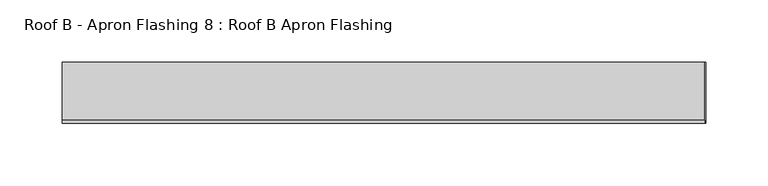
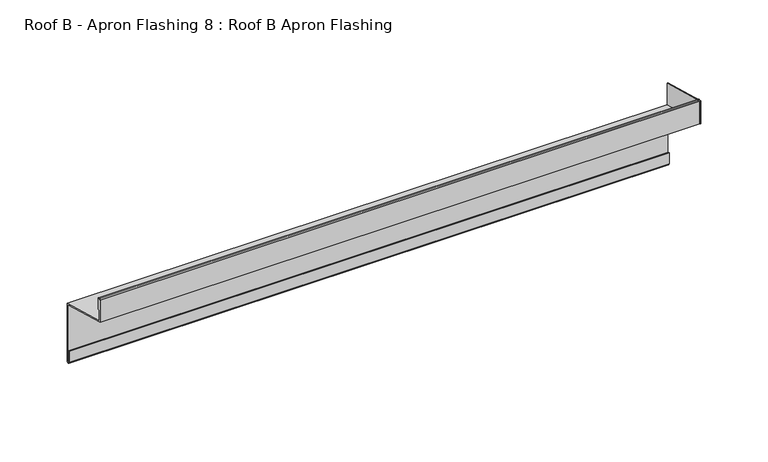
"""IFC4 building model written with IfcOpenShell, lengths in millimetres: proxy geometry, Roof B - Apron Flashing 8 : Roof B Apron Flashing."""

import ifcopenshell
import ifcopenshell.guid

model = None  # the IFC model being written
_history = None  # IfcOwnerHistory: only IFC2X3 demands one
_inside = {}  # id of a spatial element -> (the spatial element, [elements in it])
_under = {}  # id of a project, library or spatial element -> (it, [spatial elements below it])
_declared = {}  # id of a project -> (the project, [libraries it declares])
_typed = {}  # id of a type object -> (the type object, [elements of that type])
_made_of = {}  # id of a material, layer set ... -> (it, [elements and type objects made of it])


def new_model(schema):
    """Start an empty IFC model of exactly this schema.

    Asked for "IFC4X3", IfcOpenShell would pick the latest addendum, in which some entities
    have other attributes; the version numbers below select the first issue.
    IFC2X3 requires an IfcOwnerHistory on every rooted entity: one is made here for all.
    """
    global model, _history
    if schema == "IFC4X3":
        model = ifcopenshell.file(schema_version=(4, 3, 0, 0))
    else:
        model = ifcopenshell.file(schema=schema)
    _inside.clear()
    _under.clear()
    _declared.clear()
    _typed.clear()
    _made_of.clear()
    _history = None
    if model.schema == "IFC2X3":
        org = make("IfcOrganization", Name="unknown")
        user = make(
            "IfcPersonAndOrganization",
            ThePerson=make("IfcPerson", FamilyName="unknown"),
            TheOrganization=org,
        )
        app = make(
            "IfcApplication",
            ApplicationDeveloper=org,
            Version="unknown",
            ApplicationFullName="unknown",
            ApplicationIdentifier="unknown",
        )
        _history = make(
            "IfcOwnerHistory",
            OwningUser=user,
            OwningApplication=app,
            ChangeAction="ADDED",
            CreationDate=0,
        )
    return model


def make(cls, **values):
    """One entity of the class cls with the attributes given. An attribute that is None is left unset."""
    return model.create_entity(
        cls, **{name: value for name, value in values.items() if value is not None}
    )


def rooted(cls, **values):
    """An entity with a GlobalId (a new one), such as an element, a storey or a relation."""
    return make(cls, GlobalId=ifcopenshell.guid.new(), OwnerHistory=_history, **values)


def si_unit(unit_type, name, prefix=None):
    """IfcSIUnit, for example si_unit("LENGTHUNIT", "METRE", prefix="MILLI")."""
    return make("IfcSIUnit", UnitType=unit_type, Prefix=prefix, Name=name)


def assignment(units):
    """IfcUnitAssignment: the units of a project."""
    return None if units is None else make("IfcUnitAssignment", Units=units)


def point(xyz):
    """IfcCartesianPoint."""
    return None if xyz is None else make("IfcCartesianPoint", Coordinates=xyz)


def direction(xyz):
    """IfcDirection."""
    return None if xyz is None else make("IfcDirection", DirectionRatios=xyz)


def frame(location, z_axis=None, x_axis=None):
    """IfcAxis2Placement3D, a coordinate frame: its origin and axes. An axis left out is left unset."""
    return make(
        "IfcAxis2Placement3D",
        Location=point(location),
        Axis=direction(z_axis),
        RefDirection=direction(x_axis),
    )


def frame_2d(location, x_axis=None):
    """IfcAxis2Placement2D, a coordinate frame in the plane: its origin and x axis."""
    return make(
        "IfcAxis2Placement2D", Location=point(location), RefDirection=direction(x_axis)
    )


def origin():
    """The frame at (0, 0, 0) with its axes left unset."""
    return frame((0.0, 0.0, 0.0))


def place(relative_to, where):
    """IfcLocalPlacement: puts the frame where relative to a parent placement (None: the world)."""
    return make(
        "IfcLocalPlacement", PlacementRelTo=relative_to, RelativePlacement=where
    )


def context(
    kind, dimensions, precision=None, world=None, true_north=None, identifier=None
):
    """IfcGeometricRepresentationContext, for example the 3D "Model" context."""
    return make(
        "IfcGeometricRepresentationContext",
        ContextIdentifier=identifier,
        ContextType=kind,
        CoordinateSpaceDimension=dimensions,
        Precision=precision,
        WorldCoordinateSystem=world,
        TrueNorth=true_north,
    )


def project(units=None, contexts=None):
    """IfcProject with its units and contexts."""
    return rooted(
        "IfcProject",
        Name="project",
        RepresentationContexts=contexts,
        UnitsInContext=assignment(units),
    )


def spatial(cls, under=None, at=None, **own):
    """A site, building, storey or space (cls), placed at a placement, below another one or the project."""
    s = rooted(cls, ObjectPlacement=at, **own)
    if under is not None:
        _under.setdefault(under.id(), (under, []))[1].append(s)
    return s


def polyline(points):
    """IfcPolyline through the points."""
    return make("IfcPolyline", Points=[point(p) for p in points])


def circle_curve(where, radius):
    """IfcCircle in the frame where."""
    return make("IfcCircle", Position=where, Radius=radius)


def trimmed(basis, trim1, trim2, sense, master):
    """IfcTrimmedCurve: the piece of a basis curve between two trims."""
    return make(
        "IfcTrimmedCurve",
        BasisCurve=basis,
        Trim1=trim1,
        Trim2=trim2,
        SenseAgreement=sense,
        MasterRepresentation=master,
    )


def segment(curve, same_sense, transition):
    """IfcCompositeCurveSegment."""
    return make(
        "IfcCompositeCurveSegment",
        Transition=transition,
        SameSense=same_sense,
        ParentCurve=curve,
    )


def composite_curve(segments, self_intersect=None):
    """IfcCompositeCurve: segments joined end to end."""
    return make("IfcCompositeCurve", Segments=segments, SelfIntersect=self_intersect)


def outline(outer, holes=None, kind="AREA"):
    """IfcArbitraryClosedProfileDef: a profile drawn as a closed curve; with holes, ...WithVoids."""
    if holes is None:
        return make("IfcArbitraryClosedProfileDef", ProfileType=kind, OuterCurve=outer)
    return make(
        "IfcArbitraryProfileDefWithVoids",
        ProfileType=kind,
        OuterCurve=outer,
        InnerCurves=holes,
    )


def extrude(swept, where, along, depth):
    """IfcExtrudedAreaSolid: the profile swept, set in the frame where, extruded along a direction by depth."""
    return make(
        "IfcExtrudedAreaSolid",
        SweptArea=swept,
        Position=where,
        ExtrudedDirection=direction(along),
        Depth=depth,
    )


def shape(context_of_items, identifier, shape_type, items):
    """IfcShapeRepresentation: the items that make up one representation, for example the "Body"."""
    return make(
        "IfcShapeRepresentation",
        ContextOfItems=context_of_items,
        RepresentationIdentifier=identifier,
        RepresentationType=shape_type,
        Items=items,
    )


def source(mapping_origin, context_of_items, identifier, shape_type, items):
    """IfcRepresentationMap: a shape defined once, which mapped items show again and again."""
    return make(
        "IfcRepresentationMap",
        MappingOrigin=mapping_origin,
        MappedRepresentation=shape(context_of_items, identifier, shape_type, items),
    )


def transform(
    local_origin,
    x_axis=None,
    y_axis=None,
    z_axis=None,
    scale=None,
    scale2=None,
    scale3=None,
    uniform=True,
):
    """IfcCartesianTransformationOperator3D, or its non-uniform kind. x_axis, y_axis, z_axis: its Axis1, 2, 3."""
    if uniform:
        return make(
            "IfcCartesianTransformationOperator3D",
            Axis1=direction(x_axis),
            Axis2=direction(y_axis),
            LocalOrigin=point(local_origin),
            Scale=scale,
            Axis3=direction(z_axis),
        )
    return make(
        "IfcCartesianTransformationOperator3DnonUniform",
        Axis1=direction(x_axis),
        Axis2=direction(y_axis),
        LocalOrigin=point(local_origin),
        Scale=scale,
        Axis3=direction(z_axis),
        Scale2=scale2,
        Scale3=scale3,
    )


def mapped(mapping_source, mapping_target):
    """IfcMappedItem: shows the shape of a source again, moved by a transform."""
    return make(
        "IfcMappedItem", MappingSource=mapping_source, MappingTarget=mapping_target
    )


def made_of(thing, what):
    """Note that an element or type object is made of a material, layer set ...; save() writes the relation."""
    if what is not None:
        _made_of.setdefault(what.id(), (what, []))[1].append(thing)
    return thing


def element(
    cls,
    number,
    at=None,
    inside=None,
    cuts=None,
    type_object=None,
    material=None,
    context=None,
    identifier="Body",
    shape_type=None,
    held_by="IfcProductDefinitionShape",
    body=None,
    shapes=None,
    **own,
):
    """One element of the class cls, such as IfcWall. Its Tag is "e" and its number.

    at: its placement. inside: the storey or other place that contains it. cuts: it is an
    opening in that element (IfcRelVoidsElement). A single representation is given by context,
    identifier, shape_type and body (its items); several are given by shapes. held_by: the class
    of the entity that holds the representations. save() writes the other relations.
    """
    e = rooted(cls, Tag="e%d" % number, ObjectPlacement=at, **own)
    if body is not None:
        shapes = [shape(context, identifier, shape_type, body)]
    if shapes is not None:
        e.Representation = make(held_by, Representations=shapes)
    if inside is not None:
        _inside.setdefault(inside.id(), (inside, []))[1].append(e)
    if cuts is not None:
        rooted(
            "IfcRelVoidsElement", RelatingBuildingElement=cuts, RelatedOpeningElement=e
        )
    if type_object is not None:
        _typed.setdefault(type_object.id(), (type_object, []))[1].append(e)
    return made_of(e, material)


def aggregate(whole, parts):
    """IfcRelAggregates: a whole, such as a stair, and the parts it consists of."""
    return rooted("IfcRelAggregates", RelatingObject=whole, RelatedObjects=parts)


def save(model, path):
    """Write the relations noted so far, then the file.

    IfcRelAggregates (storeys below a building ...), IfcRelContainedInSpatialStructure (elements
    in a storey), IfcRelDefinesByType, IfcRelAssociatesMaterial and IfcRelDeclares: one each for
    every whole, place, type object, material and project.
    """
    for whole, parts in _under.values():
        aggregate(whole, parts)
    for where, things in _inside.values():
        rooted(
            "IfcRelContainedInSpatialStructure",
            RelatedElements=things,
            RelatingStructure=where,
        )
    for kind, things in _typed.values():
        rooted("IfcRelDefinesByType", RelatedObjects=things, RelatingType=kind)
    for what, things in _made_of.values():
        rooted("IfcRelAssociatesMaterial", RelatedObjects=things, RelatingMaterial=what)
    for by, libraries in _declared.values():
        rooted("IfcRelDeclares", RelatingContext=by, RelatedDefinitions=libraries)
    model.write(path)


def roof_b_apron_flashing_8_roof_b_apron_flashing_57c60d25(model_context):
    return source(origin(), model_context, "Body", "SweptSolid", [
        extrude(outline(polyline([(608.0490096, -973.6339834), (608.0490096, -953.130654), (656.8026399, -966.1941499), (656.8026399, -986.6974792), (608.0490096, -973.6339834)])), frame((9682.4791786, 0.0, 0.0), z_axis=(1.0, 0.0, 0.0), x_axis=(0.0, 1.0, 0.0)), (0.0, 0.0, 1.0), 0.8428395),
        extrude(outline(composite_curve([segment(polyline([(656.8026399, -985.662203), (656.8026399, -1037.6563748)]), True, "CONTINUOUS"), segment(trimmed(circle_curve(frame_2d((655.3026399, -1037.6563748)), 1.5), [point((656.8026399, -1037.6563748))], [point((653.8026399, -1037.6563748))], False, "CARTESIAN"), True, "CONTINUOUS"), segment(polyline([(653.8026399, -1037.6563748), (653.8026399, -1027.6933761), (654.8026399, -1027.6933761), (654.8026399, -1037.6563748)]), True, "CONTINUOUS"), segment(trimmed(circle_curve(frame_2d((655.3026399, -1037.6563748)), 0.5), [point((654.8026399, -1037.6563748))], [point((655.8026399, -1037.6563748))], True, "CARTESIAN"), True, "CONTINUOUS"), segment(polyline([(655.8026399, -1037.6563748), (655.8026399, -986.42953), (608.0490096, -973.6339834), (608.0490096, -953.3538686)]), True, "CONTINUOUS"), segment(trimmed(circle_curve(frame_2d((609.2990096, -953.3538686)), 1.25), [point((608.0490096, -953.3538686))], [point((610.5490096, -953.3538686))], False, "CARTESIAN"), True, "CONTINUOUS"), segment(polyline([(610.5490096, -953.3538686), (610.5490096, -962.6360034)]), True, "CONTINUOUS"), segment(trimmed(circle_curve(frame_2d((610.0490096, -962.6360034)), 0.5), [point((610.5490096, -962.6360034))], [point((609.5490096, -962.6360034))], False, "CARTESIAN"), True, "CONTINUOUS"), segment(polyline([(609.5490096, -962.6360034), (609.5490096, -953.3538686)]), True, "CONTINUOUS"), segment(trimmed(circle_curve(frame_2d((609.2990096, -953.3538686)), 0.25), [point((609.5490096, -953.3538686))], [point((609.0490096, -953.3538686))], True, "CARTESIAN"), True, "CONTINUOUS"), segment(polyline([(609.0490096, -953.3538686), (609.0490096, -972.8666564), (656.8026399, -985.662203)]), True, "CONTINUOUS")], self_intersect=False)), frame((9167.4791786, 0.0, 0.0), z_axis=(1.0, 0.0, 0.0), x_axis=(0.0, 1.0, 0.0)), (0.0, 0.0, 1.0), 515.0),
    ])


if __name__ == "__main__":
    model = new_model("IFC4")
    model_context = context("Model", 3, world=origin())
    ifc_project = project(units=[si_unit("LENGTHUNIT", "METRE", prefix="MILLI")], contexts=[model_context])
    site = spatial("IfcSite", under=ifc_project)
    building = spatial("IfcBuilding", under=site)
    placement = place(None, origin())
    roof_b_apron_flashing_8_roof_b_apron_flashing_shape = roof_b_apron_flashing_8_roof_b_apron_flashing_57c60d25(model_context)
    element("IfcBuildingElementProxy", 1, Name="Roof B - Apron Flashing 8 : Roof B Apron Flashing", ObjectType="Roof B - Apron Flashing 8 : Roof B Apron Flashing", at=placement, inside=building, context=model_context, shape_type="MappedRepresentation", body=[
        mapped(roof_b_apron_flashing_8_roof_b_apron_flashing_shape, transform((0.0, 0.0, 0.0), x_axis=(1.0, 0.0, 0.0), y_axis=(0.0, 1.0, 0.0), z_axis=(0.0, 0.0, 1.0))),
    ])
    save(model, "model.ifc")
